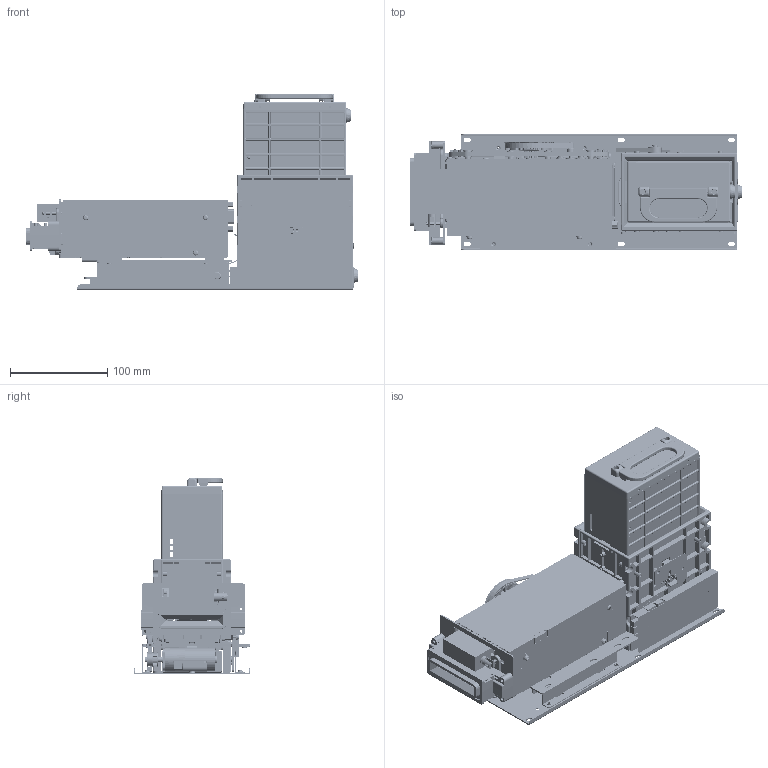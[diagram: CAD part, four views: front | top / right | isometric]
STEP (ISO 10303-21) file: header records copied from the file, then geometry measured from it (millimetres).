
FILE_DESCRIPTION((''),'2;1');
FILE_NAME('K212-M8','2023-02-10T',('TTCE'),(''),'CREO PARAMETRIC BY PTC INC, 2014190','CREO PARAMETRIC BY PTC INC, 2014190','');
FILE_SCHEMA(('CONFIG_CONTROL_DESIGN'));
Products named in the file (1): K212-M8
Bounding box: 340.96 x 120 x 201.65 mm (x, y, z)
Surface area: 816071.8 mm2 (no closed solid volume)
Topology: 0 solids, 111 shells, 15778 faces, 45178 edges, 29221 vertices
Faces by surface type: plane 8418, cylinder 5392, cone 910, torus 592, sphere 264, bspline 202
Entity records: 535152 total; most frequent: CARTESIAN_POINT 119658, ORIENTED_EDGE 89192, DIRECTION 85070, EDGE_CURVE 44889, VERTEX_POINT 29220, AXIS2_PLACEMENT_3D 29005, VECTOR 27060, LINE 27060
